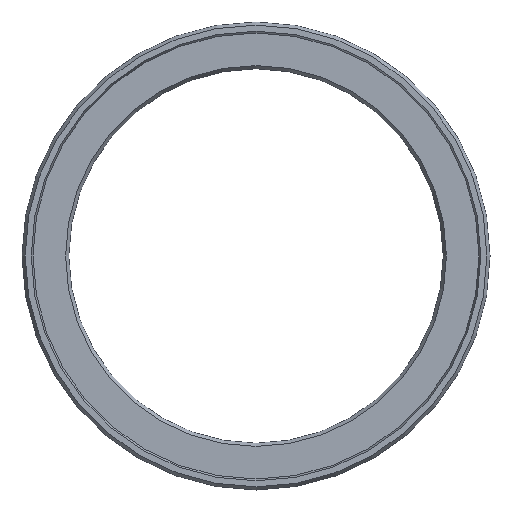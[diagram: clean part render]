
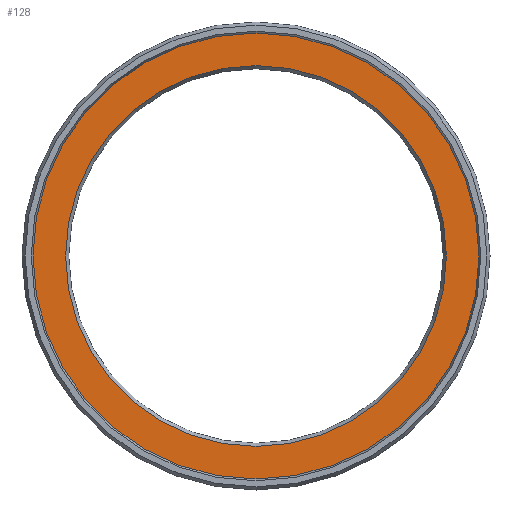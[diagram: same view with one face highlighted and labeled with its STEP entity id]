
A CAD part, left-side view. The second image highlights one B-rep face of the part: STEP entity #128.
In plain terms, the highlighted planar face has unit normal (-1, 0, 0).
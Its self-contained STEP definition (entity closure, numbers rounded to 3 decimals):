
#112=PLANE('',#329);
#128=ADVANCED_FACE('',(#163,#164),#112,.T.);
#163=FACE_BOUND('',#199,.T.);
#164=FACE_BOUND('',#200,.T.);
#199=EDGE_LOOP('',(#235));
#200=EDGE_LOOP('',(#236));
#235=ORIENTED_EDGE('',*,*,#276,.T.);
#236=ORIENTED_EDGE('',*,*,#275,.F.);
#257=VERTEX_POINT('',#454);
#258=VERTEX_POINT('',#457);
#275=EDGE_CURVE('',#257,#257,#293,.T.);
#276=EDGE_CURVE('',#258,#258,#294,.T.);
#293=CIRCLE('',#326,40.5);
#294=CIRCLE('',#328,34.577);
#326=AXIS2_PLACEMENT_3D('',#453,#394,#395);
#328=AXIS2_PLACEMENT_3D('',#456,#398,#399);
#329=AXIS2_PLACEMENT_3D('',#458,#400,#401);
#394=DIRECTION('',(1.,0.,0.));
#395=DIRECTION('',(0.,0.,-1.));
#398=DIRECTION('',(1.,0.,0.));
#399=DIRECTION('',(0.,0.,1.));
#400=DIRECTION('',(-1.,0.,0.));
#401=DIRECTION('',(0.,0.,1.));
#453=CARTESIAN_POINT('',(0.,0.,0.));
#454=CARTESIAN_POINT('',(0.,0.,-40.5));
#456=CARTESIAN_POINT('',(0.,0.,0.));
#457=CARTESIAN_POINT('',(0.,0.,34.577));
#458=CARTESIAN_POINT('',(0.,40.5,0.));
